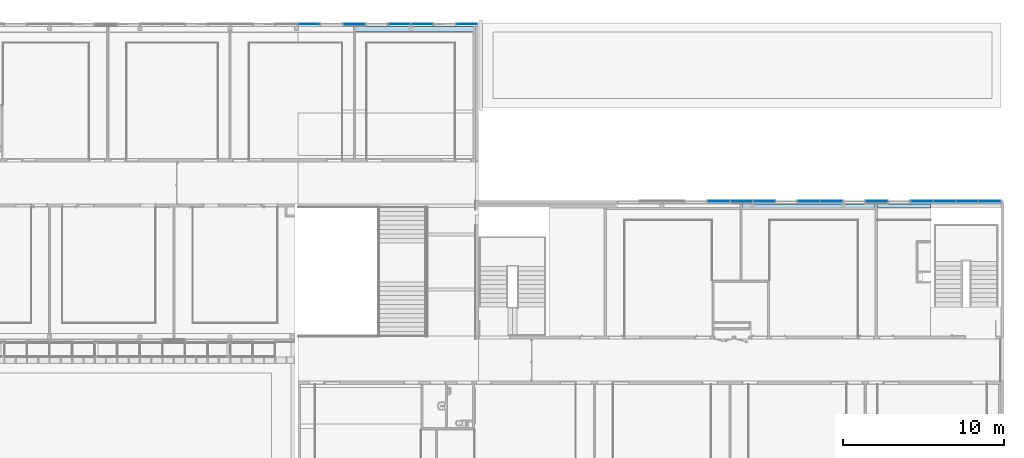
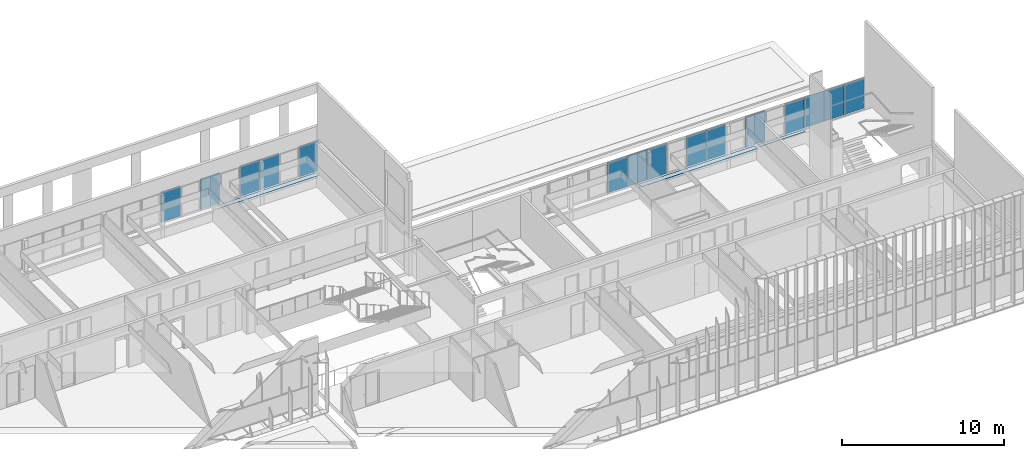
# One storey, part 32 of 106: 15 plates, 3 slabs, 2 elements without a shape of their own.
"""IFC2X3 building model written with IfcOpenShell, lengths in centimetres."""

from ifc_helpers import new_model, entity, si_unit, converted_unit, derived_unit, direction, frame, frame_2d, origin, origin_2d_with_axis, place, context, subcontext, project, spatial, rectangle, extrude, source, transform, mapped, material, layer, layer_set, layer_usage, type_object, type_shapes, element, aggregate, save


model = new_model("IFC2X3")

# Units and contexts
model_context = context("Model", 3, precision=0.001, world=origin(), true_north=direction((6.12303176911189e-17, 1.0)))
body_context = subcontext(model_context, "Body", "Model", "MODEL_VIEW")
ifc_project = project(units=[si_unit("LENGTHUNIT", "METRE", prefix="CENTI"), si_unit("AREAUNIT", "SQUARE_METRE"), si_unit("VOLUMEUNIT", "CUBIC_METRE"), converted_unit("PLANEANGLEUNIT", "DEGREE", entity("IfcRatioMeasure", 0.0174532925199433), si_unit("PLANEANGLEUNIT", "RADIAN"), dimensions=[0, 0, 0, 0, 0, 0, 0]), si_unit("MASSUNIT", "GRAM", prefix="KILO"), derived_unit("MASSDENSITYUNIT", [(si_unit("MASSUNIT", "GRAM", prefix="KILO"), 1), (si_unit("LENGTHUNIT", "METRE"), -3)]), si_unit("TIMEUNIT", "SECOND"), si_unit("FREQUENCYUNIT", "HERTZ"), si_unit("THERMODYNAMICTEMPERATUREUNIT", "DEGREE_CELSIUS"), derived_unit("THERMALTRANSMITTANCEUNIT", [(si_unit("MASSUNIT", "GRAM", prefix="KILO"), 1), (si_unit("THERMODYNAMICTEMPERATUREUNIT", "KELVIN"), -1), (si_unit("TIMEUNIT", "SECOND"), -3)]), derived_unit("VOLUMETRICFLOWRATEUNIT", [(si_unit("LENGTHUNIT", "METRE"), 3), (si_unit("TIMEUNIT", "SECOND"), -1)]), si_unit("ELECTRICCURRENTUNIT", "AMPERE"), si_unit("ELECTRICVOLTAGEUNIT", "VOLT"), si_unit("POWERUNIT", "WATT"), si_unit("FORCEUNIT", "NEWTON", prefix="KILO"), si_unit("ILLUMINANCEUNIT", "LUX"), si_unit("LUMINOUSFLUXUNIT", "LUMEN"), si_unit("LUMINOUSINTENSITYUNIT", "CANDELA"), derived_unit("USERDEFINED", [(si_unit("MASSUNIT", "GRAM", prefix="KILO"), -1), (si_unit("LENGTHUNIT", "METRE"), -2), (si_unit("TIMEUNIT", "SECOND"), 3), (si_unit("LUMINOUSFLUXUNIT", "LUMEN"), 1)]), derived_unit("LINEARVELOCITYUNIT", [(si_unit("LENGTHUNIT", "METRE"), 1), (si_unit("TIMEUNIT", "SECOND"), -1)]), si_unit("PRESSUREUNIT", "PASCAL"), derived_unit("USERDEFINED", [(si_unit("LENGTHUNIT", "METRE"), -2), (si_unit("MASSUNIT", "GRAM", prefix="KILO"), 1), (si_unit("TIMEUNIT", "SECOND"), -2)])], contexts=[model_context])

# Site, building, storey
site_placement = place(None, frame((-2781.94577612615, 7442.24238424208, 0.0)))
site = spatial("IfcSite", under=ifc_project, at=site_placement, Name="Default", CompositionType="ELEMENT")
building_placement = place(site_placement, origin())
building = spatial("IfcBuilding", under=site, at=building_placement, CompositionType="ELEMENT")
storey_placement = place(building_placement, frame((0.0, 0.0, 422.0)))
storey = spatial("IfcBuildingStorey", under=building, at=storey_placement, Name="Toiture - Cuisine", CompositionType="ELEMENT", Elevation=421.999999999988)

# Curtain wall, plates
curtain_wall_type = type_object("IfcCurtainWallType", Name="Mur-rideau:07 - mur rideau trame 140 cm", PredefinedType="NOTDEFINED")
curtain_wall_1_placement = place(building_placement, origin())
curtain_wall_1 = element("IfcCurtainWall", 1, at=curtain_wall_1_placement, inside=storey, type_object=curtain_wall_type, Name="Mur-rideau:07 - mur rideau trame 140 cm", ObjectType="Mur-rideau:07 - mur rideau trame 140 cm")
ifc_material_1 = material(Name="Verre")
ifc_layer_1 = layer(ifc_material_1, 4.0)
ifc_layer_set_1 = layer_set([ifc_layer_1], Name="Panneau système:Vitré")
ifc_layer_usage_1 = layer_usage(ifc_layer_set_1, "AXIS3", "POSITIVE", 0.0)
plate_type_1 = type_object("IfcPlateType", Name="Vitré", PredefinedType="CURTAIN_PANEL", material=ifc_layer_set_1)
shared_shape_1 = source(origin(), body_context, "Body", "SweptSolid", [
    extrude(rectangle(XDim=4.0, YDim=135.01250003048, at=origin_2d_with_axis()), frame((0.0, 0.0, 0.0), z_axis=(0.0, 0.0, 1.0), x_axis=(0.0, 1.0, 0.0)), (0.0, 0.0, 1.0), 229.2625),
])
type_shapes(plate_type_1, [shared_shape_1])
plate_1_placement = place(curtain_wall_1_placement, frame((-3721.12504157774, 26.0, 509.61875), z_axis=(0.0, 0.0, 1.0), x_axis=(-1.0, 0.0, 0.0)))
plate_1 = element("IfcPlate", 2, at=plate_1_placement, type_object=plate_type_1, material=ifc_layer_usage_1, Name="Panneau système:Vitré", ObjectType="Panneau système:Vitré", context=body_context, shape_type="MappedRepresentation", body=[
    mapped(shared_shape_1, transform((0.0, 0.0, 0.0), scale=1.0)),
])
ifc_layer_usage_2 = layer_usage(ifc_layer_set_1, "AXIS3", "POSITIVE", 0.0)
plate_type_2 = type_object("IfcPlateType", Name="Vitré", PredefinedType="CURTAIN_PANEL", material=ifc_layer_set_1)
shared_shape_2 = source(origin(), body_context, "Body", "SweptSolid", [
    extrude(rectangle(XDim=4.0, YDim=138.262499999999, at=origin_2d_with_axis()), frame((0.0, 0.0, 0.0), z_axis=(0.0, 0.0, 1.0), x_axis=(0.0, 1.0, 0.0)), (0.0, 0.0, 1.0), 229.2625),
])
type_shapes(plate_type_2, [shared_shape_2])
plate_2_placement = place(curtain_wall_1_placement, frame((-3999.50004159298, 26.0, 509.61875), z_axis=(0.0, 0.0, 1.0), x_axis=(-1.0, 0.0, 0.0)))
plate_2 = element("IfcPlate", 3, at=plate_2_placement, type_object=plate_type_2, material=ifc_layer_usage_2, Name="Panneau système:Vitré", ObjectType="Panneau système:Vitré", context=body_context, shape_type="MappedRepresentation", body=[
    mapped(shared_shape_2, transform((0.0, 0.0, 0.0), scale=1.0)),
])
ifc_layer_usage_3 = layer_usage(ifc_layer_set_1, "AXIS3", "POSITIVE", 0.0)
plate_3_placement = place(curtain_wall_1_placement, frame((-4139.50004159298, 26.0, 509.61875), z_axis=(0.0, 0.0, 1.0), x_axis=(-1.0, 0.0, 0.0)))
plate_3 = element("IfcPlate", 4, at=plate_3_placement, type_object=plate_type_2, material=ifc_layer_usage_3, Name="Panneau système:Vitré", ObjectType="Panneau système:Vitré", context=body_context, shape_type="MappedRepresentation", body=[
    mapped(shared_shape_2, transform((0.0, 0.0, 0.0), scale=1.0)),
])
ifc_layer_usage_4 = layer_usage(ifc_layer_set_1, "AXIS3", "POSITIVE", 0.0)
plate_4_placement = place(curtain_wall_1_placement, frame((-4419.50004159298, 26.0, 509.61875), z_axis=(0.0, 0.0, 1.0), x_axis=(-1.0, 0.0, 0.0)))
plate_4 = element("IfcPlate", 5, at=plate_4_placement, type_object=plate_type_2, material=ifc_layer_usage_4, Name="Panneau système:Vitré", ObjectType="Panneau système:Vitré", context=body_context, shape_type="MappedRepresentation", body=[
    mapped(shared_shape_2, transform((0.0, 0.0, 0.0), scale=1.0)),
])
ifc_layer_usage_5 = layer_usage(ifc_layer_set_1, "AXIS3", "POSITIVE", 0.0)
plate_5_placement = place(curtain_wall_1_placement, frame((-4699.50004159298, 26.0, 509.61875), z_axis=(0.0, 0.0, 1.0), x_axis=(-1.0, 0.0, 0.0)))
plate_5 = element("IfcPlate", 6, at=plate_5_placement, type_object=plate_type_2, material=ifc_layer_usage_5, Name="Panneau système:Vitré", ObjectType="Panneau système:Vitré", context=body_context, shape_type="MappedRepresentation", body=[
    mapped(shared_shape_2, transform((0.0, 0.0, 0.0), scale=1.0)),
])
aggregate(curtain_wall_1, [plate_1, plate_2, plate_3, plate_4, plate_5])

curtain_wall_2_placement = place(building_placement, origin())
curtain_wall_2 = element("IfcCurtainWall", 7, at=curtain_wall_2_placement, inside=storey, type_object=curtain_wall_type, Name="Mur-rideau:07 - mur rideau trame 140 cm", ObjectType="Mur-rideau:07 - mur rideau trame 140 cm")
ifc_layer_usage_6 = layer_usage(ifc_layer_set_1, "AXIS3", "POSITIVE", 0.0)
plate_type_3 = type_object("IfcPlateType", Name="Vitré", PredefinedType="CURTAIN_PANEL", material=ifc_layer_set_1)
shared_shape_3 = source(origin(), body_context, "Body", "SweptSolid", [
    extrude(rectangle(XDim=4.0, YDim=138.2625, at=origin_2d_with_axis()), frame((0.0, 0.0, 0.0), z_axis=(0.0, 0.0, 1.0), x_axis=(0.0, 1.0, 0.0)), (0.0, 0.0, 1.0), 229.2625),
])
type_shapes(plate_type_3, [shared_shape_3])
plate_6_placement = place(curtain_wall_2_placement, frame((-2159.29988284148, -1073.7999999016, 509.61875)))
plate_6 = element("IfcPlate", 8, at=plate_6_placement, type_object=plate_type_3, material=ifc_layer_usage_6, Name="Panneau système:Vitré", ObjectType="Panneau système:Vitré", context=body_context, shape_type="MappedRepresentation", body=[
    mapped(shared_shape_3, transform((0.0, 0.0, 0.0), scale=1.0)),
])
ifc_layer_usage_7 = layer_usage(ifc_layer_set_1, "AXIS3", "POSITIVE", 0.0)
plate_7_placement = place(curtain_wall_2_placement, frame((-2019.29988284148, -1073.7999999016, 509.61875)))
plate_7 = element("IfcPlate", 9, at=plate_7_placement, type_object=plate_type_3, material=ifc_layer_usage_7, Name="Panneau système:Vitré", ObjectType="Panneau système:Vitré", context=body_context, shape_type="MappedRepresentation", body=[
    mapped(shared_shape_3, transform((0.0, 0.0, 0.0), scale=1.0)),
])
ifc_layer_usage_8 = layer_usage(ifc_layer_set_1, "AXIS3", "POSITIVE", 0.0)
plate_8_placement = place(curtain_wall_2_placement, frame((-1879.29988284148, -1073.7999999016, 509.61875)))
plate_8 = element("IfcPlate", 10, at=plate_8_placement, type_object=plate_type_3, material=ifc_layer_usage_8, Name="Panneau système:Vitré", ObjectType="Panneau système:Vitré", context=body_context, shape_type="MappedRepresentation", body=[
    mapped(shared_shape_3, transform((0.0, 0.0, 0.0), scale=1.0)),
])
ifc_layer_usage_9 = layer_usage(ifc_layer_set_1, "AXIS3", "POSITIVE", 0.0)
plate_9_placement = place(curtain_wall_2_placement, frame((-1599.29988284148, -1073.7999999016, 509.61875)))
plate_9 = element("IfcPlate", 11, at=plate_9_placement, type_object=plate_type_3, material=ifc_layer_usage_9, Name="Panneau système:Vitré", ObjectType="Panneau système:Vitré", context=body_context, shape_type="MappedRepresentation", body=[
    mapped(shared_shape_3, transform((0.0, 0.0, 0.0), scale=1.0)),
])
ifc_layer_usage_10 = layer_usage(ifc_layer_set_1, "AXIS3", "POSITIVE", 0.0)
plate_10_placement = place(curtain_wall_2_placement, frame((-1459.29988284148, -1073.7999999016, 509.61875)))
plate_10 = element("IfcPlate", 12, at=plate_10_placement, type_object=plate_type_3, material=ifc_layer_usage_10, Name="Panneau système:Vitré", ObjectType="Panneau système:Vitré", context=body_context, shape_type="MappedRepresentation", body=[
    mapped(shared_shape_3, transform((0.0, 0.0, 0.0), scale=1.0)),
])
ifc_layer_usage_11 = layer_usage(ifc_layer_set_1, "AXIS3", "POSITIVE", 0.0)
plate_11_placement = place(curtain_wall_2_placement, frame((-1179.29988284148, -1073.7999999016, 509.61875)))
plate_11 = element("IfcPlate", 13, at=plate_11_placement, type_object=plate_type_3, material=ifc_layer_usage_11, Name="Panneau système:Vitré", ObjectType="Panneau système:Vitré", context=body_context, shape_type="MappedRepresentation", body=[
    mapped(shared_shape_3, transform((0.0, 0.0, 0.0), scale=1.0)),
])
ifc_layer_usage_12 = layer_usage(ifc_layer_set_1, "AXIS3", "POSITIVE", 0.0)
plate_12_placement = place(curtain_wall_2_placement, frame((-899.29988284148, -1073.7999999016, 509.61875)))
plate_12 = element("IfcPlate", 14, at=plate_12_placement, type_object=plate_type_3, material=ifc_layer_usage_12, Name="Panneau système:Vitré", ObjectType="Panneau système:Vitré", context=body_context, shape_type="MappedRepresentation", body=[
    mapped(shared_shape_3, transform((0.0, 0.0, 0.0), scale=1.0)),
])
ifc_layer_usage_13 = layer_usage(ifc_layer_set_1, "AXIS3", "POSITIVE", 0.0)
plate_13_placement = place(curtain_wall_2_placement, frame((-759.29988284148, -1073.79999990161, 509.61875)))
plate_13 = element("IfcPlate", 15, at=plate_13_placement, type_object=plate_type_3, material=ifc_layer_usage_13, Name="Panneau système:Vitré", ObjectType="Panneau système:Vitré", context=body_context, shape_type="MappedRepresentation", body=[
    mapped(shared_shape_3, transform((0.0, 0.0, 0.0), scale=1.0)),
])
ifc_layer_usage_14 = layer_usage(ifc_layer_set_1, "AXIS3", "POSITIVE", 0.0)
plate_14_placement = place(curtain_wall_2_placement, frame((-619.29988284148, -1073.79999990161, 509.61875)))
plate_14 = element("IfcPlate", 16, at=plate_14_placement, type_object=plate_type_3, material=ifc_layer_usage_14, Name="Panneau système:Vitré", ObjectType="Panneau système:Vitré", context=body_context, shape_type="MappedRepresentation", body=[
    mapped(shared_shape_3, transform((0.0, 0.0, 0.0), scale=1.0)),
])
ifc_layer_usage_15 = layer_usage(ifc_layer_set_1, "AXIS3", "POSITIVE", 0.0)
plate_type_4 = type_object("IfcPlateType", Name="Vitré", PredefinedType="CURTAIN_PANEL", material=ifc_layer_set_1)
shared_shape_4 = source(origin(), body_context, "Body", "SweptSolid", [
    extrude(rectangle(XDim=4.0, YDim=139.13125, at=origin_2d_with_axis()), frame((0.0, 0.0, 0.0), z_axis=(0.0, 0.0, 1.0), x_axis=(0.0, 1.0, 0.0)), (0.0, 0.0, 1.0), 229.2625),
])
type_shapes(plate_type_4, [shared_shape_4])
plate_15_placement = place(curtain_wall_2_placement, frame((-478.865507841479, -1073.79999990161, 509.61875)))
plate_15 = element("IfcPlate", 17, at=plate_15_placement, type_object=plate_type_4, material=ifc_layer_usage_15, Name="Panneau système:Vitré", ObjectType="Panneau système:Vitré", context=body_context, shape_type="MappedRepresentation", body=[
    mapped(shared_shape_4, transform((0.0, 0.0, 0.0), scale=1.0)),
])
aggregate(curtain_wall_2, [plate_6, plate_7, plate_8, plate_9, plate_10, plate_11, plate_12, plate_13, plate_14, plate_15])

# Slabs
ifc_material_2 = material(Name="Bois tablettes")
ifc_layer_2 = layer(ifc_material_2, 2.0)
ifc_layer_set_2 = layer_set([ifc_layer_2], Name="Sol:02 - Tablette bois 2cm")
ifc_layer_usage_16 = layer_usage(ifc_layer_set_2, "AXIS3", "POSITIVE", 0.0)
slab_type_1 = type_object("IfcSlabType", Name="Sol:02 - Tablette bois 2cm", PredefinedType="FLOOR")
slab_1_placement = place(building_placement, frame((-8394.19987766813, -1125.0, 510.0)))
element("IfcSlab", 18, at=slab_1_placement, inside=storey, type_object=slab_type_1, material=ifc_layer_usage_16, Name="Sol:02 - Tablette bois 2cm", ObjectType="Sol:02 - Tablette bois 2cm", PredefinedType="FLOOR", context=body_context, shape_type="SweptSolid", body=[
    extrude(rectangle(XDim=745.799999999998, YDim=34.9999999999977, at=frame_2d((-578.850000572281, 550.0), x_axis=(-1.0, 0.0))), frame((3774.44999741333, 567.499999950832, 2.0), z_axis=(0.0, 0.0, -1.0), x_axis=(-1.0, 0.0, 0.0)), (0.0, 0.0, 1.0), 1.99999999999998),
])
slab_type_2 = type_object("IfcSlabType", Name="Sol:02 - Tablette bois 2cm", PredefinedType="FLOOR")
slab_2_placement = place(building_placement, frame((-8394.19987766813, -1125.0, 510.0)))
element("IfcSlab", 19, at=slab_2_placement, inside=storey, type_object=slab_type_2, material=ifc_layer_usage_16, Name="Sol:02 - Tablette bois 2cm:8", ObjectType="Sol:02 - Tablette bois 2cm", PredefinedType="FLOOR", context=body_context, shape_type="SweptSolid", body=[
    extrude(rectangle(XDim=824.0, YDim=35.0000000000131, at=frame_2d((-3016.44999741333, -550.0), x_axis=(1.0, 0.0))), frame((3774.44999741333, 567.499999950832, 2.0), z_axis=(0.0, 0.0, -1.0), x_axis=(-1.0, 0.0, 0.0)), (0.0, 0.0, 1.0), 1.99999999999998),
])
slab_type_3 = type_object("IfcSlabType", Name="Sol:02 - Tablette bois 2cm", PredefinedType="FLOOR", material=ifc_layer_set_2)
slab_3_placement = place(building_placement, frame((-8394.19987766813, -1125.0, 510.0)))
element("IfcSlab", 20, at=slab_3_placement, inside=storey, type_object=slab_type_3, material=ifc_layer_usage_16, Name="Sol:02 - Tablette bois 2cm:9", ObjectType="Sol:02 - Tablette bois 2cm", PredefinedType="FLOOR", context=body_context, shape_type="SweptSolid", body=[
    extrude(rectangle(XDim=330.0, YDim=25.0000000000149, at=frame_2d((-3609.44999741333, -545.0), x_axis=(1.0, 0.0))), frame((3774.44999741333, 567.499999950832, 2.0), z_axis=(0.0, 0.0, -1.0), x_axis=(-1.0, 0.0, 0.0)), (0.0, 0.0, 1.0), 1.99999999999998),
])

save(model, "model.ifc")
